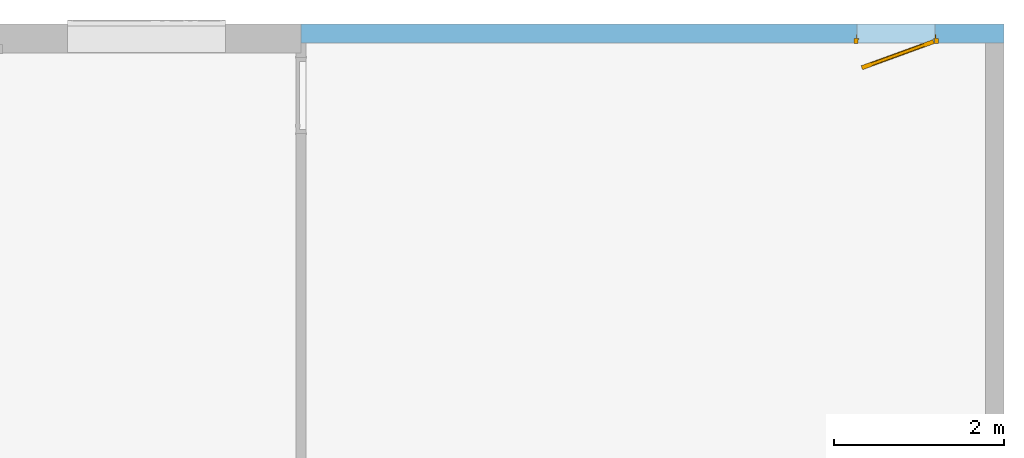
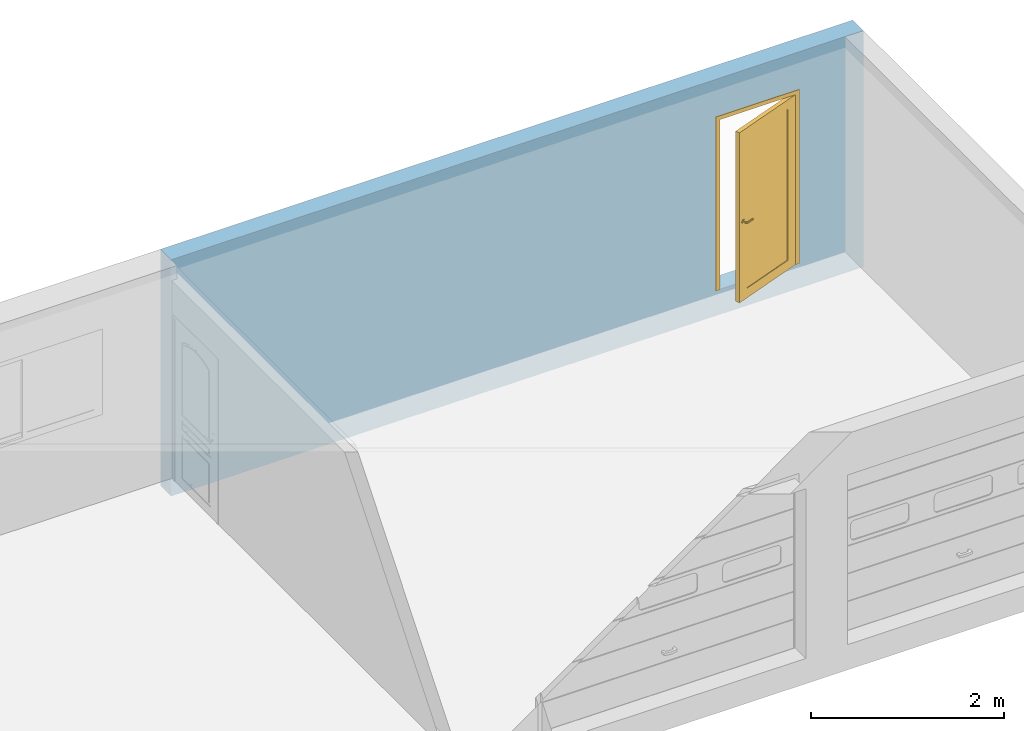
# One storey, part 22 of 23: 1 door, 1 opening, plus 1 element that does not belong to this part.
"""IFC2X3 building model written with IfcOpenShell, lengths in metres."""

from ifc_helpers import new_model, entity, si_unit, converted_unit, derived_unit, direction, frame, frame_2d, origin, place, context, subcontext, project, spatial, rectangle, extrude, faceted_brep, source, transform, mapped, material, layer, layer_set, layer_usage, type_object, type_shapes, element, fill, save


model = new_model("IFC2X3")

# Units and contexts
model_context = context("Model", 3, precision=1e-05, world=origin(), true_north=direction((6.12303176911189e-17, 1.0)))
body_context = subcontext(model_context, "Body", "Model", "MODEL_VIEW")
ifc_project = project(units=[si_unit("LENGTHUNIT", "METRE"), si_unit("AREAUNIT", "SQUARE_METRE"), si_unit("VOLUMEUNIT", "CUBIC_METRE"), converted_unit("PLANEANGLEUNIT", "DEGREE", entity("IfcRatioMeasure", 0.0174532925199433), si_unit("PLANEANGLEUNIT", "RADIAN"), dimensions=[0, 0, 0, 0, 0, 0, 0]), si_unit("MASSUNIT", "GRAM", prefix="KILO"), derived_unit("MASSDENSITYUNIT", [(si_unit("MASSUNIT", "GRAM", prefix="KILO"), 1), (si_unit("LENGTHUNIT", "METRE"), -3)]), si_unit("TIMEUNIT", "SECOND"), si_unit("FREQUENCYUNIT", "HERTZ"), si_unit("THERMODYNAMICTEMPERATUREUNIT", "DEGREE_CELSIUS"), derived_unit("THERMALTRANSMITTANCEUNIT", [(si_unit("MASSUNIT", "GRAM", prefix="KILO"), 1), (si_unit("THERMODYNAMICTEMPERATUREUNIT", "KELVIN"), -1), (si_unit("TIMEUNIT", "SECOND"), -3)]), derived_unit("VOLUMETRICFLOWRATEUNIT", [(si_unit("LENGTHUNIT", "METRE"), 3), (si_unit("TIMEUNIT", "SECOND"), -1)]), si_unit("ELECTRICCURRENTUNIT", "AMPERE"), si_unit("ELECTRICVOLTAGEUNIT", "VOLT"), si_unit("POWERUNIT", "WATT"), si_unit("FORCEUNIT", "NEWTON", prefix="KILO"), si_unit("ILLUMINANCEUNIT", "LUX"), si_unit("LUMINOUSFLUXUNIT", "LUMEN"), si_unit("LUMINOUSINTENSITYUNIT", "CANDELA"), derived_unit("USERDEFINED", [(si_unit("MASSUNIT", "GRAM", prefix="KILO"), -1), (si_unit("LENGTHUNIT", "METRE"), -2), (si_unit("TIMEUNIT", "SECOND"), 3), (si_unit("LUMINOUSFLUXUNIT", "LUMEN"), 1)]), derived_unit("LINEARVELOCITYUNIT", [(si_unit("LENGTHUNIT", "METRE"), 1), (si_unit("TIMEUNIT", "SECOND"), -1)]), si_unit("PRESSUREUNIT", "PASCAL"), derived_unit("USERDEFINED", [(si_unit("LENGTHUNIT", "METRE"), -2), (si_unit("MASSUNIT", "GRAM", prefix="KILO"), 1), (si_unit("TIMEUNIT", "SECOND"), -2)])], contexts=[model_context])

# Site, building, storey
site_placement = place(None, origin())
site = spatial("IfcSite", under=ifc_project, at=site_placement, Name="Default", CompositionType="ELEMENT")
building_placement = place(site_placement, origin())
building = spatial("IfcBuilding", under=site, at=building_placement, CompositionType="ELEMENT")
storey_placement = place(building_placement, origin())
storey = spatial("IfcBuildingStorey", under=building, at=storey_placement, Name="2 - Rez de Chaussée", CompositionType="ELEMENT", Elevation=-1.94916083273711e-14)

# Wall, opening, door
ifc_material_1 = material(Name="Maçonnerie - Enduit")
ifc_layer_1 = layer(ifc_material_1, 0.02)
ifc_material_2 = material(Name="Blocs béton manufacturés")
ifc_layer_2 = layer(ifc_material_2, 0.2)
ifc_layer_set = layer_set([ifc_layer_1, ifc_layer_2], Name="Mur de base:Parpaing 20 Enduit 2")
ifc_layer_usage = layer_usage(ifc_layer_set, "AXIS2", "NEGATIVE", 0.11)
wall_type = type_object("IfcWallType", Name="Mur de base:Parpaing 20 Enduit 2", PredefinedType="STANDARD", material=ifc_layer_set)
wall_placement = place(storey_placement, frame((5.24377753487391, 6.52805500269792, -0.32)))
wall = element("IfcWallStandardCase", 1, at=wall_placement, inside=storey, type_object=wall_type, material=ifc_layer_usage, Name="Mur de base:Parpaing 20 Enduit 2", ObjectType="Mur de base:Parpaing 20 Enduit 2", context=body_context, shape_type="SweptSolid", body=[
    extrude(rectangle(XDim=8.28, YDim=0.22, at=frame_2d((4.14, 7.63278329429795e-17), x_axis=(-1.0, 0.0))), origin(), (0.0, 0.0, 1.0), 2.99000000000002),
])
opening_placement = place(wall_placement, frame((6.51000000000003, -0.410000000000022, 0.32)))
opening = element("IfcOpeningElement", 2, at=opening_placement, cuts=wall, Name="Mur de base:Parpaing 20 Enduit 2", ObjectType="Opening", context=body_context, shape_type="Brep", body=[
    faceted_brep([(0.960000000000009, 0.0, 2.15999999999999), (0.960000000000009, 0.292000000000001, 2.15999999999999), (0.0400000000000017, 0.292000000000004, 2.15999999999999), (0.0399999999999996, 0.0, 2.15999999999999), (0.960000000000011, 0.820000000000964, 0.0), (0.960000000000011, 0.400000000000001, 0.0), (0.969999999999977, 0.400000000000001, 0.0), (0.969999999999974, 0.352000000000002, 0.0), (1.0, 0.352000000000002, 0.0), (1.0, 0.292000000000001, 0.0), (0.959999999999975, 0.292000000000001, 0.0), (0.960000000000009, 0.0, 0.0), (0.0399999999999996, 0.0, 0.0), (0.0400000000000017, 0.292000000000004, 0.0), (0.0, 0.292000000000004, 0.0), (0.0, 0.352000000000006, 0.0), (0.0300000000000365, 0.352000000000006, 0.0), (0.0300000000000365, 0.400000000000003, 0.0), (0.0400000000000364, 0.400000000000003, 0.0), (0.0400000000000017, 0.820000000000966, 0.0), (0.960000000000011, 0.820000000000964, 2.15999999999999), (0.960000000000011, 0.400000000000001, 2.15999999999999), (0.0400000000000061, 0.820000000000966, 2.15999999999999), (0.0, 0.352000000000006, 2.2), (1.0, 0.352000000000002, 2.2), (0.969999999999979, 0.352000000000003, 2.16999999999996), (0.0300000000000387, 0.352000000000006, 2.16999999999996), (0.0300000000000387, 0.400000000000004, 2.16999999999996), (0.969999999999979, 0.400000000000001, 2.16999999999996), (0.0400000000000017, 0.400000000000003, 2.15999999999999), (1.0, 0.292000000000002, 2.2), (0.0, 0.292000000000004, 2.2)], [[[0, 1, 2, 3]], [[4, 5, 6, 7, 8, 9, 10, 11, 12, 13, 14, 15, 16, 17, 18, 19]], [[20, 21, 5, 4]], [[20, 4, 19, 22]], [[3, 2, 13, 12]], [[3, 12, 11, 0]], [[15, 23, 24, 8, 7, 25, 26, 16]], [[16, 26, 27, 17]], [[17, 27, 28, 6, 5, 21, 29, 18]], [[13, 2, 1, 10, 9, 30, 31, 14]], [[14, 31, 23, 15]], [[25, 28, 27, 26]], [[23, 31, 30, 24]], [[7, 6, 28, 25]], [[24, 30, 9, 8]], [[19, 18, 29, 22]], [[11, 10, 1, 0]], [[22, 29, 21, 20]]]),
])
ifc_material_3 = material(Name="PVC - Blanc")
door_style = type_object("IfcDoorStyle", Name="Lisse - 0.90 m x 2.15 m", ConstructionType="NOTDEFINED", OperationType="SINGLE_SWING_RIGHT", ParameterTakesPrecedence=False, Sizeable=False, material=ifc_material_3)
shared_shape = source(origin(), body_context, "Body", "Brep", [
    faceted_brep([(0.170158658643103, -0.822480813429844, 0.975851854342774), (0.175824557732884, -0.820418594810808, 0.978349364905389), (0.180689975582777, -0.81864772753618, 0.982322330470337), (0.184423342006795, -0.817288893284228, 0.9875), (0.18677023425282, -0.816434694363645, 0.993529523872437), (0.187570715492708, -0.816143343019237, 1.0), (0.18677023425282, -0.816434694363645, 1.00647047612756), (0.184423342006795, -0.817288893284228, 1.0125), (0.180689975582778, -0.81864772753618, 1.01767766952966), (0.175824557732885, -0.820418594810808, 1.02165063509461), (0.170158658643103, -0.822480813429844, 1.02414814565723), (0.164078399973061, -0.824693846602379, 1.025), (0.157998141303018, -0.826906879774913, 1.02414814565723), (0.152332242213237, -0.82896909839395, 1.02165063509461), (0.147466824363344, -0.830739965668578, 1.01767766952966), (0.143733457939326, -0.832098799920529, 1.0125), (0.141386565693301, -0.832952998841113, 1.00647047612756), (0.140586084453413, -0.833244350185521, 1.0), (0.141386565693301, -0.832952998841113, 0.993529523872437), (0.143733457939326, -0.83209879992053, 0.9875), (0.147466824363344, -0.830739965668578, 0.982322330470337), (0.152332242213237, -0.82896909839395, 0.978349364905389), (0.157998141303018, -0.826906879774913, 0.975851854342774), (0.164078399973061, -0.824693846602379, 0.975), (0.166738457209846, -0.813083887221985, 1.02414814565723), (0.172404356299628, -0.811021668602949, 1.02165063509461), (0.177269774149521, -0.809250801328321, 1.01767766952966), (0.181003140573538, -0.807891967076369, 1.0125), (0.183350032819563, -0.807037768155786, 1.00647047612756), (0.184150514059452, -0.806746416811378, 1.0), (0.183350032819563, -0.807037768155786, 0.993529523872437), (0.181003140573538, -0.807891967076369, 0.9875), (0.177269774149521, -0.809250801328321, 0.982322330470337), (0.172404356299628, -0.811021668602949, 0.978349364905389), (0.166738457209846, -0.813083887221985, 0.975851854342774), (0.160658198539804, -0.81529692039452, 0.975), (0.154577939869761, -0.817509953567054, 0.975851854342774), (0.14891204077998, -0.819572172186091, 0.978349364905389), (0.144046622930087, -0.821343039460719, 0.982322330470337), (0.140313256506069, -0.82270187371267, 0.9875), (0.137966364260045, -0.823556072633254, 0.993529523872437), (0.137165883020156, -0.823847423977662, 1.0), (0.137966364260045, -0.823556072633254, 1.00647047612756), (0.14031325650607, -0.82270187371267, 1.0125), (0.144046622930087, -0.821343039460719, 1.01767766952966), (0.14891204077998, -0.819572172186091, 1.02165063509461), (0.154577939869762, -0.817509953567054, 1.02414814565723), (0.160658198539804, -0.81529692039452, 1.025)], [[[0, 1, 2, 3, 4, 5, 6, 7, 8, 9, 10, 11, 12, 13, 14, 15, 16, 17, 18, 19, 20, 21, 22, 23]], [[24, 25, 26, 27, 28, 29, 30, 31, 32, 33, 34, 35, 36, 37, 38, 39, 40, 41, 42, 43, 44, 45, 46, 47]], [[40, 18, 17, 41]], [[39, 19, 18, 40]], [[21, 20, 38, 37]], [[39, 38, 20, 19]], [[22, 21, 37, 36]], [[23, 22, 36, 35]], [[34, 0, 23, 35]], [[33, 1, 0, 34]], [[3, 2, 32, 31]], [[33, 32, 2, 1]], [[4, 3, 31, 30]], [[5, 4, 30, 29]], [[28, 6, 5, 29]], [[27, 7, 6, 28]], [[9, 8, 26, 25]], [[27, 26, 8, 7]], [[10, 9, 25, 24]], [[11, 10, 24, 47]], [[46, 12, 11, 47]], [[45, 13, 12, 46]], [[15, 14, 44, 43]], [[45, 44, 14, 13]], [[16, 15, 43, 42]], [[17, 16, 42, 41]]]),
    faceted_brep([(0.149637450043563, -0.76609925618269, 0.975851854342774), (0.155303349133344, -0.764037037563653, 0.978349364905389), (0.160168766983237, -0.762266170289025, 0.982322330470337), (0.163902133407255, -0.760907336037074, 0.9875), (0.16624902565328, -0.760053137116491, 0.993529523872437), (0.167049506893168, -0.759761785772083, 1.0), (0.16624902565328, -0.76005313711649, 1.00647047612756), (0.163902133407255, -0.760907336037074, 1.0125), (0.160168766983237, -0.762266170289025, 1.01767766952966), (0.155303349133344, -0.764037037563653, 1.02165063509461), (0.149637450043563, -0.76609925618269, 1.02414814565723), (0.14355719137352, -0.768312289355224, 1.025), (0.137476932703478, -0.770525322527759, 1.02414814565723), (0.131811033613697, -0.772587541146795, 1.02165063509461), (0.126945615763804, -0.774358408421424, 1.01767766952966), (0.123212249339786, -0.775717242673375, 1.0125), (0.120865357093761, -0.776571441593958, 1.00647047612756), (0.120064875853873, -0.776862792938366, 1.0), (0.120865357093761, -0.776571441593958, 0.993529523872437), (0.123212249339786, -0.775717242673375, 0.9875), (0.126945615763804, -0.774358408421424, 0.982322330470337), (0.131811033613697, -0.772587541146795, 0.978349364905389), (0.137476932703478, -0.770525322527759, 0.975851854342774), (0.14355719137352, -0.768312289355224, 0.975), (0.146217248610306, -0.756702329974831, 1.02414814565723), (0.151883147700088, -0.754640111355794, 1.02165063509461), (0.156748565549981, -0.752869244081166, 1.01767766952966), (0.160481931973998, -0.751510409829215, 1.0125), (0.162828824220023, -0.750656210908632, 1.00647047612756), (0.163629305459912, -0.750364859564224, 1.0), (0.162828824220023, -0.750656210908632, 0.993529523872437), (0.160481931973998, -0.751510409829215, 0.9875), (0.156748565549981, -0.752869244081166, 0.982322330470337), (0.151883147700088, -0.754640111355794, 0.978349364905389), (0.146217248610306, -0.756702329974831, 0.975851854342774), (0.140136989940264, -0.758915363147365, 0.975), (0.134056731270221, -0.7611283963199, 0.975851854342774), (0.12839083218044, -0.763190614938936, 0.978349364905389), (0.123525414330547, -0.764961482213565, 0.982322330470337), (0.119792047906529, -0.766320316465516, 0.9875), (0.117445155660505, -0.767174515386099, 0.993529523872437), (0.116644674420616, -0.767465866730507, 1.0), (0.117445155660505, -0.767174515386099, 1.00647047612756), (0.119792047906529, -0.766320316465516, 1.0125), (0.123525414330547, -0.764961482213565, 1.01767766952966), (0.12839083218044, -0.763190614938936, 1.02165063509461), (0.134056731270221, -0.7611283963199, 1.02414814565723), (0.140136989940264, -0.758915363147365, 1.025)], [[[0, 1, 2, 3, 4, 5, 6, 7, 8, 9, 10, 11, 12, 13, 14, 15, 16, 17, 18, 19, 20, 21, 22, 23]], [[24, 25, 26, 27, 28, 29, 30, 31, 32, 33, 34, 35, 36, 37, 38, 39, 40, 41, 42, 43, 44, 45, 46, 47]], [[40, 18, 17, 41]], [[39, 19, 18, 40]], [[21, 20, 38, 37]], [[39, 38, 20, 19]], [[22, 21, 37, 36]], [[23, 22, 36, 35]], [[34, 0, 23, 35]], [[33, 1, 0, 34]], [[3, 2, 32, 31]], [[33, 32, 2, 1]], [[4, 3, 31, 30]], [[5, 4, 30, 29]], [[28, 6, 5, 29]], [[27, 7, 6, 28]], [[9, 8, 26, 25]], [[27, 26, 8, 7]], [[10, 9, 25, 24]], [[11, 10, 24, 47]], [[46, 12, 11, 47]], [[45, 13, 12, 46]], [[15, 14, 44, 43]], [[45, 44, 14, 13]], [[16, 15, 43, 42]], [[17, 16, 42, 41]]]),
    faceted_brep([(0.162175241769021, -0.825386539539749, 1.00778044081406), (0.16598155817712, -0.824001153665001, 1.00778044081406), (0.169716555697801, -0.822641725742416, 1.007), (0.169716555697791, -0.822641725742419, 0.993000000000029), (0.165981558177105, -0.824001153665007, 0.992219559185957), (0.162175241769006, -0.825386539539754, 0.992219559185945), (0.158440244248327, -0.826745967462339, 0.992999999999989), (0.158440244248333, -0.826745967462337, 1.007), (0.167897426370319, -0.852729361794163, 1.007), (0.171069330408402, -0.849822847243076, 1.00778044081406), (0.191639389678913, -0.859414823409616, 1.00778044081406), (0.191830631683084, -0.855034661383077, 1.00778044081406), (0.174301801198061, -0.846860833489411, 1.00778044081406), (0.177473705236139, -0.843954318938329, 1.007), (0.177473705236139, -0.843954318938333, 0.993000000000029), (0.174301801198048, -0.846860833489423, 0.992219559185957), (0.191830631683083, -0.855034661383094, 0.992219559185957), (0.191639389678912, -0.859414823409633, 0.992219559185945), (0.17106933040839, -0.849822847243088, 0.992219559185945), (0.167897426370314, -0.852729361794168, 0.99299999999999), (0.191451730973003, -0.863712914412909, 1.007), (0.192018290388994, -0.850736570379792, 1.007), (0.192018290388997, -0.850736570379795, 0.993000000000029), (0.191451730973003, -0.863712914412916, 0.99299999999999), (0.273807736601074, -0.833737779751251, 0.992999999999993), (0.272448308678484, -0.83000278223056, 0.992219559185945), (0.271062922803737, -0.826196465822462, 0.992219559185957), (0.269703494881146, -0.822461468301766, 0.993000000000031), (0.269703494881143, -0.822461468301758, 1.007), (0.271062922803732, -0.826196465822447, 1.00778044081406), (0.272448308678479, -0.830002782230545, 1.00778044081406), (0.27380773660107, -0.83373777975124, 1.00699999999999), (0.228974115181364, -0.85005588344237, 1.007), (0.232139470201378, -0.842518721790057, 1.0078786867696), (0.23086089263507, -0.836599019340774, 1.007), (0.230860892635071, -0.83659901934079, 0.993000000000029), (0.232139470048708, -0.842518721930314, 0.992121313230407), (0.228974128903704, -0.850055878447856, 0.992999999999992)], [[[0, 1, 2, 3, 4, 5, 6, 7]], [[8, 9, 0, 7]], [[9, 10, 11, 12, 1, 0]], [[12, 13, 2, 1]], [[3, 2, 13, 14]], [[14, 15, 4, 3]], [[15, 16, 17, 18, 5, 4]], [[18, 19, 6, 5]], [[7, 6, 19, 8]], [[20, 10, 9, 8]], [[11, 21, 13, 12]], [[14, 13, 21, 22]], [[22, 16, 15, 14]], [[17, 23, 19, 18]], [[8, 19, 23, 20]], [[24, 25, 26, 27, 28, 29, 30, 31]], [[32, 30, 33]], [[31, 30, 32]], [[10, 20, 32]], [[33, 34, 11]], [[21, 11, 34]], [[34, 29, 28]], [[30, 29, 33]], [[29, 34, 33]], [[10, 32, 33]], [[10, 33, 11]], [[22, 21, 34, 28, 27, 35]], [[35, 26, 36]], [[37, 36, 25]], [[22, 35, 16]], [[35, 27, 26]], [[24, 37, 25]], [[23, 17, 37]], [[37, 17, 36]], [[17, 16, 36]], [[16, 35, 36]], [[25, 36, 26]], [[20, 23, 37, 24, 31, 32]]]),
    faceted_brep([(0.138233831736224, -0.759608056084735, 1.00778044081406), (0.13449883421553, -0.760967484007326, 1.007), (0.134498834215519, -0.76096748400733, 0.992999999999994), (0.138233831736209, -0.759608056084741, 0.992219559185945), (0.142040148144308, -0.758222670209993, 0.992219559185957), (0.145775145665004, -0.756863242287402, 0.993000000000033), (0.145775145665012, -0.756863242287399, 1.007), (0.142040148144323, -0.758222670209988, 1.00778044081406), (0.138084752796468, -0.735734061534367, 0.993000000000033), (0.138084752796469, -0.73573406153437, 1.007), (0.133786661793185, -0.735546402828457, 1.00778044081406), (0.142042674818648, -0.717841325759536, 1.00778044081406), (0.139080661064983, -0.714608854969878, 1.00778044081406), (0.129406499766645, -0.735355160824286, 1.00778044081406), (0.125108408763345, -0.735167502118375, 1.007), (0.125108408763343, -0.73516750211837, 0.992999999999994), (0.129406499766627, -0.735355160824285, 0.992219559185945), (0.13908066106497, -0.714608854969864, 0.992219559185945), (0.142042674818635, -0.717841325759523, 0.992219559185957), (0.133786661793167, -0.735546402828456, 0.992219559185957), (0.144949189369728, -0.721013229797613, 0.993000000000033), (0.144949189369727, -0.721013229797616, 1.007), (0.13617414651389, -0.711436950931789, 1.007), (0.136174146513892, -0.711436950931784, 0.992999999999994), (0.222530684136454, -0.692775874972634, 0.993000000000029), (0.221171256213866, -0.689040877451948, 0.992219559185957), (0.219785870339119, -0.68523456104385, 0.992219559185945), (0.218426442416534, -0.68149956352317, 0.99299999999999), (0.218426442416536, -0.681499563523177, 1.007), (0.219785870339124, -0.685234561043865, 1.00778044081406), (0.221171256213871, -0.689040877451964, 1.00778044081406), (0.222530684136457, -0.692775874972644, 1.007), (0.183739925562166, -0.706894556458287, 0.993000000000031), (0.183739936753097, -0.706894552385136, 1.007), (0.180914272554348, -0.701537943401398, 1.0078786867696), (0.173696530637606, -0.697779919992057, 1.007), (0.173696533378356, -0.697779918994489, 0.992999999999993), (0.180914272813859, -0.701537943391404, 0.992121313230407)], [[[0, 1, 2, 3, 4, 5, 6, 7]], [[6, 5, 8, 9]], [[9, 10, 7, 6]], [[10, 11, 12, 13, 0, 7]], [[13, 14, 1, 0]], [[2, 1, 14, 15]], [[15, 16, 3, 2]], [[16, 17, 18, 19, 4, 3]], [[19, 8, 5, 4]], [[9, 8, 20, 21]], [[21, 11, 10, 9]], [[12, 22, 14, 13]], [[15, 14, 22, 23]], [[23, 17, 16, 15]], [[18, 20, 8, 19]], [[24, 25, 26, 27, 28, 29, 30, 31]], [[21, 20, 32, 24, 31, 33]], [[33, 30, 34]], [[35, 34, 29]], [[21, 33, 11]], [[33, 31, 30]], [[28, 35, 29]], [[22, 12, 35]], [[35, 12, 34]], [[12, 11, 34]], [[11, 33, 34]], [[29, 34, 30]], [[22, 35, 28, 27, 36, 23]], [[36, 26, 37]], [[27, 26, 36]], [[17, 23, 36]], [[37, 32, 18]], [[20, 18, 32]], [[32, 25, 24]], [[26, 25, 37]], [[25, 32, 37]], [[17, 36, 37]], [[17, 37, 18]]]),
    faceted_brep([(0.0871756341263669, -0.788833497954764, 2.15), (0.932898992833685, -0.481015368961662, 2.15), (0.932898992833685, -0.481015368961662, 0.0), (0.0871756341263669, -0.788833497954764, 0.0), (0.199938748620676, -0.747791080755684, 2.03), (0.199938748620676, -0.747791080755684, 0.12), (0.820135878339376, -0.522057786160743, 0.12), (0.820135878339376, -0.522057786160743, 2.03), (0.10427664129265, -0.835818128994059, 2.15), (0.10427664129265, -0.835818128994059, 0.0), (0.949999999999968, -0.528000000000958, 0.0), (0.949999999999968, -0.528000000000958, 2.15), (0.837236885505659, -0.569042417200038, 2.03), (0.837236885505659, -0.569042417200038, 0.12), (0.217039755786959, -0.794775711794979, 0.12), (0.217039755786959, -0.794775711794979, 2.03), (0.834500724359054, -0.561524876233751, 2.03), (0.214303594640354, -0.787258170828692, 2.03), (0.214303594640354, -0.787258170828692, 0.12), (0.834500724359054, -0.561524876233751, 0.12), (0.202674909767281, -0.755308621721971, 2.03), (0.822872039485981, -0.52957532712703, 2.03), (0.822872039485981, -0.52957532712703, 0.12), (0.202674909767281, -0.755308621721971, 0.12)], [[[0, 1, 2, 3], [4, 5, 6, 7]], [[8, 9, 10, 11], [12, 13, 14, 15]], [[1, 0, 8, 11]], [[2, 1, 11, 10]], [[3, 2, 10, 9]], [[0, 3, 9, 8]], [[16, 17, 18, 19]], [[16, 19, 13, 12]], [[19, 18, 14, 13]], [[18, 17, 15, 14]], [[17, 16, 12, 15]], [[20, 21, 22, 23]], [[20, 23, 5, 4]], [[23, 22, 6, 5]], [[22, 21, 7, 6]], [[21, 20, 4, 7]]]),
    faceted_brep([(0.0, -0.468000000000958, 0.0), (0.0300000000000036, -0.468000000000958, 0.0), (0.0300000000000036, -0.420000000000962, 0.0), (0.0400000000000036, -0.420000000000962, 0.0), (0.0400000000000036, -0.468000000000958, 0.0), (0.0599999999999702, -0.468000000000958, 0.0), (0.0599999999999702, -0.478000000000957, 0.0), (0.0499999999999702, -0.478000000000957, 0.0), (0.0499999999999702, -0.528000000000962, 0.0), (0.0, -0.528000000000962, 0.0), (0.0, -0.468000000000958, 2.20000000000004), (1.0, -0.468000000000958, 2.20000000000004), (1.0, -0.468000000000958, 0.0), (0.970000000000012, -0.468000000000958, 0.0), (0.970000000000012, -0.468000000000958, 2.17), (0.0300000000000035, -0.468000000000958, 2.17), (0.0300000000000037, -0.420000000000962, 2.17), (0.970000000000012, -0.420000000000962, 2.17), (0.970000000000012, -0.420000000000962, 0.0), (0.960000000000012, -0.420000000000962, 0.0), (0.960000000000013, -0.420000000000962, 2.16), (0.0400000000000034, -0.420000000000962, 2.16), (0.0400000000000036, -0.468000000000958, 2.16), (0.960000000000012, -0.468000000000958, 2.16), (0.960000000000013, -0.468000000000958, 0.0), (0.940000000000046, -0.468000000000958, 0.0), (0.940000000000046, -0.468000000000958, 2.14000000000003), (0.0599999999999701, -0.468000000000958, 2.14000000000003), (0.0599999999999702, -0.478000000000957, 2.14000000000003), (0.940000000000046, -0.478000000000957, 2.14000000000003), (0.940000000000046, -0.478000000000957, 0.0), (0.950000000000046, -0.478000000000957, 0.0), (0.950000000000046, -0.478000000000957, 2.15000000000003), (0.04999999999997, -0.478000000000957, 2.15000000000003), (0.0499999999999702, -0.528000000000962, 2.15000000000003), (0.950000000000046, -0.528000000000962, 2.15000000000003), (0.950000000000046, -0.528000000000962, 0.0), (1.0, -0.528000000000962, 0.0), (1.0, -0.528000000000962, 2.20000000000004), (0.0, -0.528000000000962, 2.20000000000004)], [[[0, 1, 2, 3, 4, 5, 6, 7, 8, 9]], [[1, 0, 10, 11, 12, 13, 14, 15]], [[2, 1, 15, 16]], [[3, 2, 16, 17, 18, 19, 20, 21]], [[4, 3, 21, 22]], [[5, 4, 22, 23, 24, 25, 26, 27]], [[6, 5, 27, 28]], [[7, 6, 28, 29, 30, 31, 32, 33]], [[8, 7, 33, 34]], [[9, 8, 34, 35, 36, 37, 38, 39]], [[0, 9, 39, 10]], [[11, 38, 37, 12]], [[12, 37, 36, 31, 30, 25, 24, 19, 18, 13]], [[17, 14, 13, 18]], [[23, 20, 19, 24]], [[29, 26, 25, 30]], [[35, 32, 31, 36]], [[16, 15, 14, 17]], [[22, 21, 20, 23]], [[28, 27, 26, 29]], [[34, 33, 32, 35]], [[10, 39, 38, 11]]]),
])
type_shapes(door_style, [shared_shape])
door_placement = place(opening_placement, frame((0.0, 0.820000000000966, 0.0)))
door = element("IfcDoor", 3, at=door_placement, inside=storey, type_object=door_style, material=ifc_material_3, Name="Ext. Simple:Lisse - 0.90 m x 2.15 m", ObjectType="Lisse - 0.90 m x 2.15 m", OverallHeight=2.20000000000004, OverallWidth=1.00000000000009, context=body_context, shape_type="MappedRepresentation", body=[
    mapped(shared_shape, transform((0.0, 0.0, 0.0), scale=1.0)),
])
fill(opening, door)

save(model, "model.ifc")
